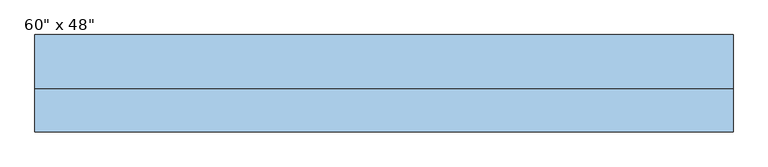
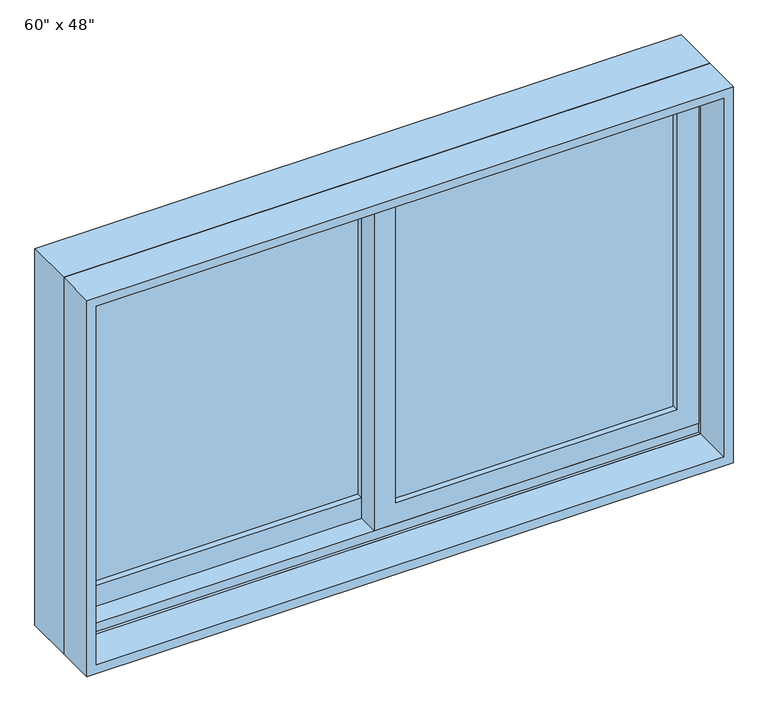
"""IFC4 building model written with IfcOpenShell, lengths in millimetres: window geometry."""

from ifc_helpers import new_model, si_unit, frame, origin, place, context, project, spatial, polyline, outline, extrude, faceted_brep, source, transform, mapped, element, save


def window_968c96fe(model_context):
    return source(origin(), model_context, "Body", "SolidModel", [
        extrude(outline(polyline([(933.45, -641.35), (933.45, 22.225), (1708.15, 22.225), (1708.15, -641.35), (933.45, -641.35)]), holes=[polyline([(1663.7, -22.225), (996.95, -22.225), (996.95, -596.9), (1663.7, -596.9), (1663.7, -22.225)])]), frame((0.0, 46.99, 0.0), z_axis=(0.0, 1.0, 0.0), x_axis=(0.0, 0.0, 1.0)), (0.0, 0.0, 1.0), 44.45),
        extrude(outline(polyline([(952.5, 641.35), (1708.15, 641.35), (1708.15, -22.225), (952.5, -22.225), (952.5, 641.35)]), holes=[polyline([(996.95, 22.225), (1663.7, 22.225), (1663.7, 596.9), (996.95, 596.9), (996.95, 22.225)])]), frame((0.0, 2.54, 0.0), z_axis=(0.0, 1.0, 0.0), x_axis=(0.0, 0.0, 1.0)), (0.0, 0.0, 1.0), 44.45),
        faceted_brep([(-660.4, -3.81, 914.4), (-660.4, 97.79, 914.4), (660.4, 97.79, 914.4), (660.4, -3.81, 914.4), (-619.4778905, 97.79, 1686.2778905), (-619.4778905, 91.44, 1686.2778905), (-619.4778905, 91.44, 933.45), (-619.4778905, 97.79, 933.45), (619.4778905, 91.44, 1686.2778905), (619.4778905, 91.44, 933.45), (641.35, 91.44, 933.45), (641.35, 91.44, 1708.15), (-641.35, 91.44, 1708.15), (-641.35, 91.44, 933.45), (-641.35, -3.81, 1708.15), (-641.35, -3.81, 933.45), (-641.35, 2.54, 933.45), (-641.35, 2.54, 952.5), (-641.35, 46.99, 952.5), (-641.35, 46.99, 933.45), (660.4, -3.81, 1727.2), (-660.4, -3.81, 1727.2), (641.35, -3.81, 1708.15), (641.35, -3.81, 933.45), (-660.4, 97.79, 1727.2), (660.4, 97.79, 1727.2), (619.4778905, 97.79, 933.45), (619.4778905, 97.79, 1686.2778905), (641.35, 46.99, 933.45), (641.35, 46.99, 952.5), (641.35, 2.54, 952.5), (641.35, 2.54, 933.45)], [[[0, 1, 2, 3]], [[4, 5, 6, 7]], [[5, 8, 9, 10, 11, 12, 13, 6]], [[12, 14, 15, 16, 17, 18, 19, 13]], [[0, 3, 20, 21], [22, 23, 15, 14]], [[24, 1, 0, 21]], [[2, 1, 24, 25], [4, 7, 26, 27]], [[5, 4, 27, 8]], [[12, 11, 22, 14]], [[21, 20, 25, 24]], [[8, 27, 26, 9]], [[22, 11, 10, 28, 29, 30, 31, 23]], [[20, 3, 2, 25]], [[26, 7, 6, 13, 19, 28, 10, 9]], [[28, 19, 18, 29]], [[29, 18, 17, 30]], [[30, 17, 16, 31]], [[15, 23, 31, 16]]]),
        extrude(outline(polyline([(1727.2, -660.4), (914.4, -660.4), (914.4, 660.4), (1727.2, 660.4), (1727.2, -660.4)]), holes=[polyline([(1708.15, 641.35), (933.45, 641.35), (933.45, -641.35), (1708.15, -641.35), (1708.15, 641.35)])]), frame((0.0, -86.36, 0.0), z_axis=(0.0, 1.0, 0.0), x_axis=(0.0, 0.0, 1.0)), (0.0, 0.0, 1.0), 82.55),
        extrude(outline(polyline([(596.9, 34.29), (596.9, 27.94), (22.225, 27.94), (22.225, 34.29), (596.9, 34.29)])), frame((0.0, 0.0, 996.95), z_axis=(0.0, 0.0, 1.0), x_axis=(1.0, 0.0, 0.0)), (0.0, 0.0, 1.0), 666.75),
        extrude(outline(polyline([(596.9, 21.59), (596.9, 15.24), (22.225, 15.24), (22.225, 21.59), (596.9, 21.59)])), frame((0.0, 0.0, 996.95), z_axis=(0.0, 0.0, 1.0), x_axis=(1.0, 0.0, 0.0)), (0.0, 0.0, 1.0), 666.75),
        extrude(outline(polyline([(-22.225, 78.74), (-22.225, 72.39), (-596.9, 72.39), (-596.9, 78.74), (-22.225, 78.74)])), frame((0.0, 0.0, 996.95), z_axis=(0.0, 0.0, 1.0), x_axis=(1.0, 0.0, 0.0)), (0.0, 0.0, 1.0), 666.75),
        extrude(outline(polyline([(-22.225, 66.04), (-22.225, 59.69), (-596.9, 59.69), (-596.9, 66.04), (-22.225, 66.04)])), frame((0.0, 0.0, 996.95), z_axis=(0.0, 0.0, 1.0), x_axis=(1.0, 0.0, 0.0)), (0.0, 0.0, 1.0), 666.75),
    ])


if __name__ == "__main__":
    model = new_model("IFC4")
    model_context = context("Model", 3, world=origin())
    ifc_project = project(units=[si_unit("LENGTHUNIT", "METRE", prefix="MILLI")], contexts=[model_context])
    site = spatial("IfcSite", under=ifc_project)
    building = spatial("IfcBuilding", under=site)
    placement = place(None, origin())
    window_shape = window_968c96fe(model_context)
    element("IfcWindow", 1, ObjectType="Planitar-Sliding-Double : 60\" x 48\"", at=placement, inside=building, context=model_context, shape_type="MappedRepresentation", body=[
        mapped(window_shape, transform((0.0, 0.0, 0.0), x_axis=(1.0, 0.0, 0.0), y_axis=(0.0, 1.0, 0.0), z_axis=(0.0, 0.0, 1.0))),
    ])
    save(model, "model.ifc")
